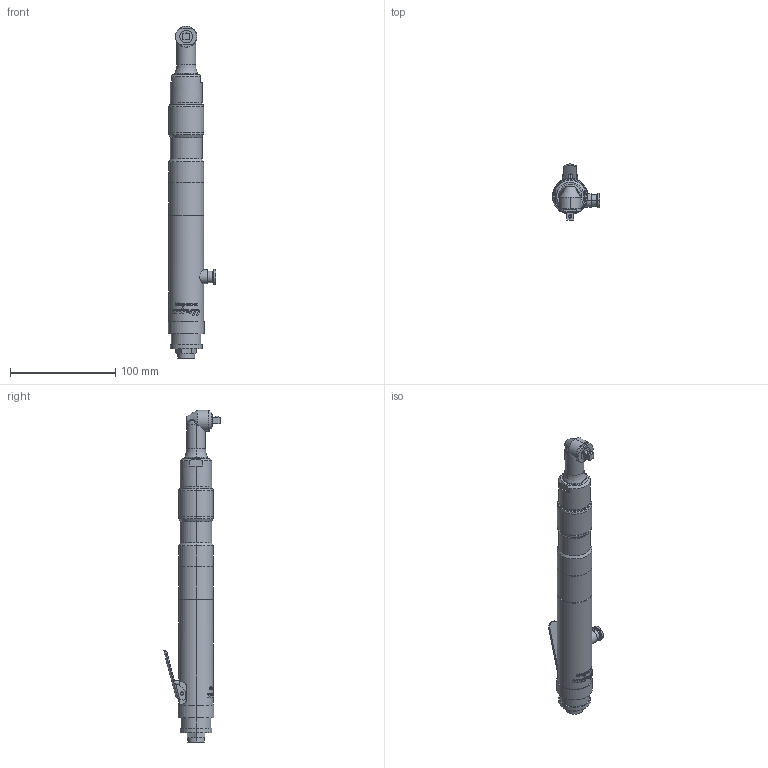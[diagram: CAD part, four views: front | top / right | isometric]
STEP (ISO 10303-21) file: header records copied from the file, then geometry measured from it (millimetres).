
FILE_DESCRIPTION (( 'STEP AP203' ), '1' );
FILE_NAME ('US-LT40-08C(P).STEP', '2006-03-22T04:11:10', ( '' ), ( '' ), 'SwSTEP 2.0', 'SolidWorks 2003240', '' );
FILE_SCHEMA (( 'CONFIG_CONTROL_DESIGN' ));
Length unit declared in the file: millimetre
Products named in the file (9): 4611146_US-LT40-08C(P)_蹬怮椔; 4661075_US-LT40-08C(P)_蹬怮椔; 8930571_US-LT40-08C(P)_蹬怮椔; US-LT40-08C(P); 4694308_US-LT40-08C(P)_蹬怮椔; 4694417_US-LT40-08C(P)_蹬怮椔; 4613698_US-LT40-08C(P)_蹬怮椔; 4610256_US-LT40-08C(P)_蹬怮椔; 9810020_US-LT40-08C(P)_蹬怮椔
Assembly tree (8 placements, depth 2):
  US-LT40-08C(P)
    9810020_US-LT40-08C(P)_蹬怮椔
    8930571_US-LT40-08C(P)_蹬怮椔
    4694417_US-LT40-08C(P)_蹬怮椔
    4694308_US-LT40-08C(P)_蹬怮椔
    4661075_US-LT40-08C(P)_蹬怮椔
    4610256_US-LT40-08C(P)_蹬怮椔
    4613698_US-LT40-08C(P)_蹬怮椔
    4611146_US-LT40-08C(P)_蹬怮椔
Bounding box: 45 x 53.62 x 315 mm (x, y, z)
Volume: 228160.3 mm3; surface area: 40050.2 mm2
Topology: 8 solids, 8 shells, 496 faces, 1259 edges, 824 vertices
Faces by surface type: plane 169, cylinder 160, bspline 141, cone 18, sphere 6, torus 2
Entity records: 26220 total; most frequent: CARTESIAN_POINT 14433, ORIENTED_EDGE 2504, DIRECTION 1808, EDGE_CURVE 1252, VERTEX_POINT 821, AXIS2_PLACEMENT_3D 653, EDGE_LOOP 551, VECTOR 502
